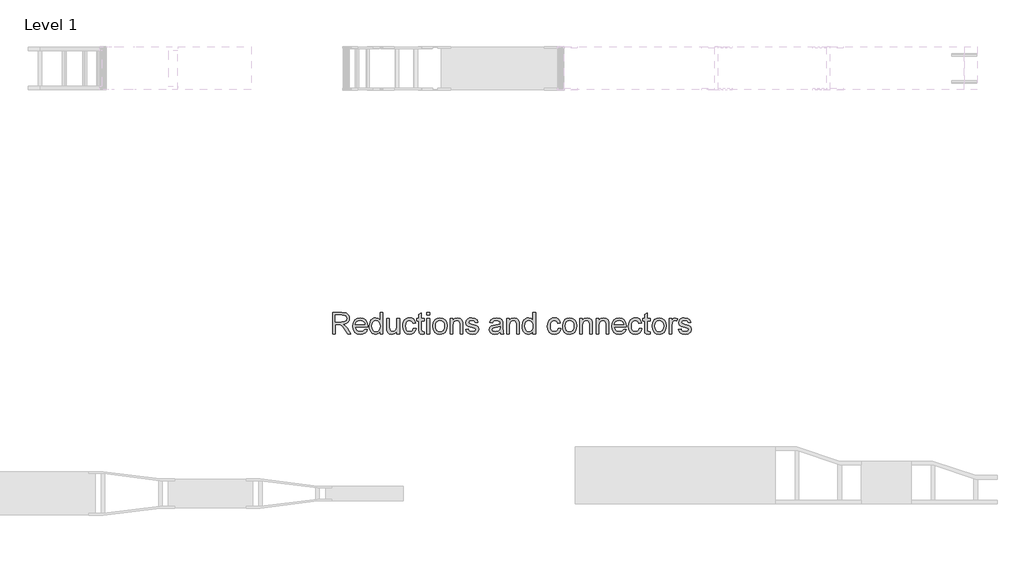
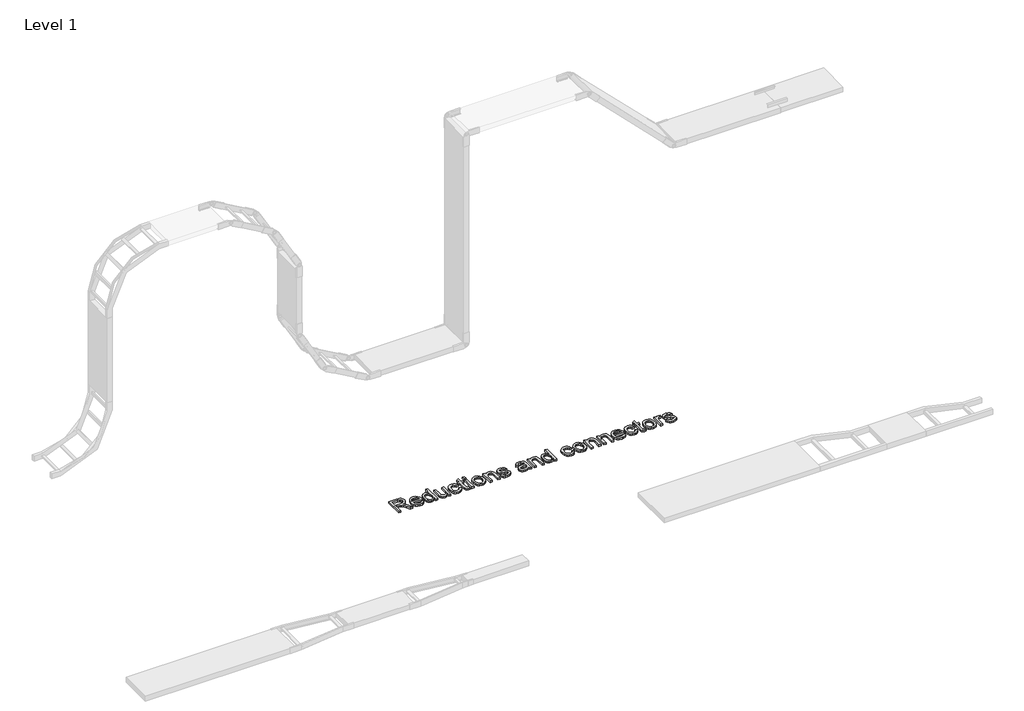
# One storey, part 42 of 106: 1 proxy.
"""IFC4 building model written with IfcOpenShell, lengths in millimetres."""

import ifcopenshell
import ifcopenshell.guid

model = None  # the IFC model being written
_history = None  # IfcOwnerHistory: only IFC2X3 demands one
_inside = {}  # id of a spatial element -> (the spatial element, [elements in it])
_under = {}  # id of a project, library or spatial element -> (it, [spatial elements below it])
_declared = {}  # id of a project -> (the project, [libraries it declares])
_typed = {}  # id of a type object -> (the type object, [elements of that type])
_made_of = {}  # id of a material, layer set ... -> (it, [elements and type objects made of it])


def new_model(schema):
    """Start an empty IFC model of exactly this schema.

    Asked for "IFC4X3", IfcOpenShell would pick the latest addendum, in which some entities
    have other attributes; the version numbers below select the first issue.
    IFC2X3 requires an IfcOwnerHistory on every rooted entity: one is made here for all.
    """
    global model, _history
    if schema == "IFC4X3":
        model = ifcopenshell.file(schema_version=(4, 3, 0, 0))
    else:
        model = ifcopenshell.file(schema=schema)
    _inside.clear()
    _under.clear()
    _declared.clear()
    _typed.clear()
    _made_of.clear()
    _history = None
    if model.schema == "IFC2X3":
        org = make("IfcOrganization", Name="unknown")
        user = make(
            "IfcPersonAndOrganization",
            ThePerson=make("IfcPerson", FamilyName="unknown"),
            TheOrganization=org,
        )
        app = make(
            "IfcApplication",
            ApplicationDeveloper=org,
            Version="unknown",
            ApplicationFullName="unknown",
            ApplicationIdentifier="unknown",
        )
        _history = make(
            "IfcOwnerHistory",
            OwningUser=user,
            OwningApplication=app,
            ChangeAction="ADDED",
            CreationDate=0,
        )
    return model


def make(cls, **values):
    """One entity of the class cls with the attributes given. An attribute that is None is left unset."""
    return model.create_entity(
        cls, **{name: value for name, value in values.items() if value is not None}
    )


def rooted(cls, **values):
    """An entity with a GlobalId (a new one), such as an element, a storey or a relation."""
    return make(cls, GlobalId=ifcopenshell.guid.new(), OwnerHistory=_history, **values)


def si_unit(unit_type, name, prefix=None):
    """IfcSIUnit, for example si_unit("LENGTHUNIT", "METRE", prefix="MILLI")."""
    return make("IfcSIUnit", UnitType=unit_type, Prefix=prefix, Name=name)


def assignment(units):
    """IfcUnitAssignment: the units of a project."""
    return None if units is None else make("IfcUnitAssignment", Units=units)


def point(xyz):
    """IfcCartesianPoint."""
    return None if xyz is None else make("IfcCartesianPoint", Coordinates=xyz)


def direction(xyz):
    """IfcDirection."""
    return None if xyz is None else make("IfcDirection", DirectionRatios=xyz)


def frame(location, z_axis=None, x_axis=None):
    """IfcAxis2Placement3D, a coordinate frame: its origin and axes. An axis left out is left unset."""
    return make(
        "IfcAxis2Placement3D",
        Location=point(location),
        Axis=direction(z_axis),
        RefDirection=direction(x_axis),
    )


def origin():
    """The frame at (0, 0, 0) with its axes left unset."""
    return frame((0.0, 0.0, 0.0))


def origin_with_axes():
    """The frame at (0, 0, 0) with the z axis (0, 0, 1) and the x axis (1, 0, 0) written out."""
    return frame((0.0, 0.0, 0.0), z_axis=(0.0, 0.0, 1.0), x_axis=(1.0, 0.0, 0.0))


def place(relative_to, where):
    """IfcLocalPlacement: puts the frame where relative to a parent placement (None: the world)."""
    return make(
        "IfcLocalPlacement", PlacementRelTo=relative_to, RelativePlacement=where
    )


def context(
    kind, dimensions, precision=None, world=None, true_north=None, identifier=None
):
    """IfcGeometricRepresentationContext, for example the 3D "Model" context."""
    return make(
        "IfcGeometricRepresentationContext",
        ContextIdentifier=identifier,
        ContextType=kind,
        CoordinateSpaceDimension=dimensions,
        Precision=precision,
        WorldCoordinateSystem=world,
        TrueNorth=true_north,
    )


def project(units=None, contexts=None):
    """IfcProject with its units and contexts."""
    return rooted(
        "IfcProject",
        Name="project",
        RepresentationContexts=contexts,
        UnitsInContext=assignment(units),
    )


def spatial(cls, under=None, at=None, **own):
    """A site, building, storey or space (cls), placed at a placement, below another one or the project."""
    s = rooted(cls, ObjectPlacement=at, **own)
    if under is not None:
        _under.setdefault(under.id(), (under, []))[1].append(s)
    return s


def polyline(points):
    """IfcPolyline through the points."""
    return make("IfcPolyline", Points=[point(p) for p in points])


def outline(outer, holes=None, kind="AREA"):
    """IfcArbitraryClosedProfileDef: a profile drawn as a closed curve; with holes, ...WithVoids."""
    if holes is None:
        return make("IfcArbitraryClosedProfileDef", ProfileType=kind, OuterCurve=outer)
    return make(
        "IfcArbitraryProfileDefWithVoids",
        ProfileType=kind,
        OuterCurve=outer,
        InnerCurves=holes,
    )


def extrude(swept, where, along, depth):
    """IfcExtrudedAreaSolid: the profile swept, set in the frame where, extruded along a direction by depth."""
    return make(
        "IfcExtrudedAreaSolid",
        SweptArea=swept,
        Position=where,
        ExtrudedDirection=direction(along),
        Depth=depth,
    )


def shape(context_of_items, identifier, shape_type, items):
    """IfcShapeRepresentation: the items that make up one representation, for example the "Body"."""
    return make(
        "IfcShapeRepresentation",
        ContextOfItems=context_of_items,
        RepresentationIdentifier=identifier,
        RepresentationType=shape_type,
        Items=items,
    )


def made_of(thing, what):
    """Note that an element or type object is made of a material, layer set ...; save() writes the relation."""
    if what is not None:
        _made_of.setdefault(what.id(), (what, []))[1].append(thing)
    return thing


def element(
    cls,
    number,
    at=None,
    inside=None,
    cuts=None,
    type_object=None,
    material=None,
    context=None,
    identifier="Body",
    shape_type=None,
    held_by="IfcProductDefinitionShape",
    body=None,
    shapes=None,
    **own,
):
    """One element of the class cls, such as IfcWall. Its Tag is "e" and its number.

    at: its placement. inside: the storey or other place that contains it. cuts: it is an
    opening in that element (IfcRelVoidsElement). A single representation is given by context,
    identifier, shape_type and body (its items); several are given by shapes. held_by: the class
    of the entity that holds the representations. save() writes the other relations.
    """
    e = rooted(cls, Tag="e%d" % number, ObjectPlacement=at, **own)
    if body is not None:
        shapes = [shape(context, identifier, shape_type, body)]
    if shapes is not None:
        e.Representation = make(held_by, Representations=shapes)
    if inside is not None:
        _inside.setdefault(inside.id(), (inside, []))[1].append(e)
    if cuts is not None:
        rooted(
            "IfcRelVoidsElement", RelatingBuildingElement=cuts, RelatedOpeningElement=e
        )
    if type_object is not None:
        _typed.setdefault(type_object.id(), (type_object, []))[1].append(e)
    return made_of(e, material)


def aggregate(whole, parts):
    """IfcRelAggregates: a whole, such as a stair, and the parts it consists of."""
    return rooted("IfcRelAggregates", RelatingObject=whole, RelatedObjects=parts)


def save(model, path):
    """Write the relations noted so far, then the file.

    IfcRelAggregates (storeys below a building ...), IfcRelContainedInSpatialStructure (elements
    in a storey), IfcRelDefinesByType, IfcRelAssociatesMaterial and IfcRelDeclares: one each for
    every whole, place, type object, material and project.
    """
    for whole, parts in _under.values():
        aggregate(whole, parts)
    for where, things in _inside.values():
        rooted(
            "IfcRelContainedInSpatialStructure",
            RelatedElements=things,
            RelatingStructure=where,
        )
    for kind, things in _typed.values():
        rooted("IfcRelDefinesByType", RelatedObjects=things, RelatingType=kind)
    for what, things in _made_of.values():
        rooted("IfcRelAssociatesMaterial", RelatedObjects=things, RelatingMaterial=what)
    for by, libraries in _declared.values():
        rooted("IfcRelDeclares", RelatingContext=by, RelatedDefinitions=libraries)
    model.write(path)


model = new_model("IFC4")

# Units and contexts
model_context = context("Model", 3, world=origin())
ifc_project = project(units=[si_unit("LENGTHUNIT", "METRE", prefix="MILLI")], contexts=[model_context])

# Site, building, storey
site = spatial("IfcSite", under=ifc_project)
building = spatial("IfcBuilding", under=site)
storey = spatial("IfcBuildingStorey", under=building, Name="Level 1", Elevation=0.0)

# Proxy
placement = place(None, origin())
element("IfcBuildingElementProxy", 1, Name="150mm Arial 2", ObjectType="150mm Arial 2", at=placement, inside=storey, context=model_context, shape_type="SweptSolid", body=[
    extrude(outline(polyline([(41668.5420892, 22747.8476348), (41668.5420892, 22898.5321), (41733.4732613, 22898.5321), (41763.6211908, 22894.467004), (41772.9010141, 22888.8384094), (41780.1023042, 22880.0828179), (41784.7238218, 22869.2257006), (41786.2643276, 22857.2925283), (41783.7121463, 22842.4484898), (41776.0556023, 22830.1428371), (41763.0647693, 22821.1205312), (41744.5097212, 22816.1265331), (41755.2150872, 22808.0699174), (41770.48219, 22788.6825362), (41795.6085303, 22747.8476348), (41773.7195516, 22747.8476348), (41754.1114412, 22779.0808162), (41739.9479844, 22799.7557843), (41729.9967765, 22809.5230513), (41721.0388499, 22813.1099007), (41710.1127546, 22813.7720883), (41687.3776473, 22813.7720883), (41687.3776473, 22747.8476348), (41668.5420892, 22747.8476348)]), holes=[polyline([(41687.3776473, 22832.6076465), (41729.536924, 22832.6076465), (41751.0396266, 22835.2747909), (41763.2533088, 22843.8096532), (41767.4287695, 22856.5935526), (41765.4376082, 22865.7814054), (41759.4641243, 22873.1850305), (41749.186421, 22878.068664), (41734.2826017, 22879.6965419), (41687.3776473, 22879.6965419), (41687.3776473, 22832.6076465)])]), origin_with_axes(), (0.0, 0.0, 1.0), 15.0),
    extrude(outline(polyline([(41894.3480578, 22780.8098615), (41912.815734, 22778.4554168), (41906.1616684, 22764.5402803), (41895.5436743, 22754.1384169), (41881.200875, 22747.6544967), (41863.3723938, 22745.49319), (41841.2718829, 22749.2225937), (41824.2665377, 22760.4108049), (41813.4232159, 22778.3312566), (41809.8087753, 22802.2573819), (41813.4600041, 22826.988249), (41824.4136905, 22845.4835163), (41841.1891095, 22857.0166168), (41862.305536, 22860.8609837), (41882.7643735, 22857.0258139), (41899.1121296, 22845.5203045), (41909.8312913, 22827.0618254), (41913.4043452, 22802.3677465), (41913.2939806, 22797.2909749), (41828.6443335, 22797.2909749), (41831.9046876, 22783.1918975), (41839.4784582, 22772.8268223), (41850.409152, 22766.4532667), (41863.7402758, 22764.3287482), (41882.207952, 22768.2650855), (41894.3480578, 22780.8098615)]), holes=[polyline([(41828.6443335, 22816.1265331), (41894.568787, 22816.1265331), (41892.0212042, 22826.0777411), (41887.0272061, 22833.1962577), (41876.0459285, 22839.8181336), (41862.2319596, 22842.0254255), (41849.5354323, 22840.2641905), (41839.0369998, 22834.9804853), (41831.7391407, 22826.7445272), (41828.6443335, 22816.1265331)])]), origin_with_axes(), (0.0, 0.0, 1.0), 15.0),
    extrude(outline(polyline([(42000.5188016, 22747.8476348), (42000.5188016, 22765.6163351), (41988.056799, 22750.5239763), (41970.8307246, 22745.49319), (41958.6538306, 22747.3142059), (41947.5070061, 22752.7772535), (41938.0708329, 22761.5006553), (41931.0258927, 22773.1027337), (41926.6388999, 22787.1144392), (41925.176569, 22803.0667223), (41930.5660402, 22833.0491049), (41937.2982807, 22844.9408904), (41946.7160598, 22853.6872848), (41958.1066061, 22859.067559), (41970.7571482, 22860.8609837), (41988.1211784, 22855.7290299), (42000.5188016, 22842.3933075), (42000.5188016, 22898.5321), (42019.3543598, 22898.5321), (42019.3543598, 22747.8476348), (42000.5188016, 22747.8476348)]), holes=[polyline([(41944.0121271, 22803.1402987), (41946.1366457, 22786.1027638), (41952.5102012, 22773.9856505), (41961.7716305, 22766.7429738), (41972.55977, 22764.3287482), (41983.343311, 22766.6326092), (41992.3702154, 22773.5441921), (41998.4816551, 22785.1922558), (42000.5188016, 22801.7055589), (41998.4448669, 22819.7593678), (41992.2230626, 22832.2765527), (41982.9662319, 22839.5882073), (41971.7872178, 22842.0254255), (41960.8887137, 22839.6847764), (41951.9583782, 22832.6628288), (41945.9986899, 22820.6008979), (41944.0121271, 22803.1402987)])]), origin_with_axes(), (0.0, 0.0, 1.0), 15.0),
    extrude(outline(polyline([(42118.2410401, 22747.8476348), (42118.2410401, 22766.8671339), (42103.4889721, 22750.836676), (42084.2487437, 22745.49319), (42066.5352256, 22749.2455864), (42054.3215434, 22758.6633654), (42048.711343, 22772.5325167), (42047.607697, 22790.0436996), (42047.607697, 22858.5065389), (42066.4432551, 22858.5065389), (42066.4432551, 22798.9096557), (42067.5836893, 22779.7062156), (42075.0332997, 22768.4306324), (42089.0679978, 22764.3287482), (42104.7949531, 22768.5226029), (42115.1876195, 22779.9453389), (42118.2410401, 22800.9330067), (42118.2410401, 22858.5065389), (42137.0765982, 22858.5065389), (42137.0765982, 22747.8476348), (42118.2410401, 22747.8476348)])), origin_with_axes(), (0.0, 0.0, 1.0), 15.0),
    extrude(outline(polyline([(42233.6088338, 22787.8731959), (42252.4443919, 22785.5187511), (42247.1928764, 22768.7663247), (42237.3244419, 22756.1065856), (42223.7679904, 22748.1465389), (42207.4524239, 22745.49319), (42187.4166507, 22749.1950026), (42171.7494763, 22760.3004403), (42161.6373199, 22778.3220596), (42158.2666011, 22802.7724167), (42159.7059394, 22819.5340401), (42164.0239544, 22834.0607803), (42171.2896238, 22845.7916175), (42181.5719255, 22854.1655314), (42193.8729797, 22859.1871206), (42207.1949065, 22860.8609837), (42223.1104013, 22858.5617212), (42235.8345198, 22851.6639338), (42244.9625918, 22840.5355035), (42250.0899471, 22825.5443122), (42231.254389, 22823.1898674), (42222.5171916, 22837.2981419), (42207.3420593, 22842.0254255), (42195.1697638, 22839.6985719), (42185.5082629, 22832.7180111), (42179.2036852, 22820.7066639), (42177.1021593, 22803.2874515), (42179.1576999, 22785.6337142), (42185.3243219, 22773.5809803), (42194.8110788, 22766.6418062), (42206.8270245, 22764.3287482), (42216.5804959, 22765.772685), (42224.5773308, 22770.1044955), (42230.3944648, 22777.4345442), (42233.6088338, 22787.8731959)])), origin_with_axes(), (0.0, 0.0, 1.0), 15.0),
    extrude(outline(polyline([(42308.9510664, 22763.556196), (42311.3055111, 22747.2958118), (42297.2156307, 22745.49319), (42281.4334931, 22748.620187), (42273.5608184, 22756.8239555), (42271.2799501, 22778.1978994), (42271.2799501, 22839.6709808), (42257.1532814, 22839.6709808), (42257.1532814, 22858.5065389), (42271.2799501, 22858.5065389), (42271.2799501, 22885.3987128), (42290.1155082, 22896.4719608), (42290.1155082, 22858.5065389), (42308.9510664, 22858.5065389), (42308.9510664, 22839.6709808), (42290.1155082, 22839.6709808), (42290.1155082, 22778.7497224), (42291.1087896, 22769.0376377), (42294.3277571, 22765.597941), (42300.7472979, 22764.3287482), (42308.9510664, 22763.556196)])), origin_with_axes(), (0.0, 0.0, 1.0), 15.0),
    extrude(outline(polyline([(42327.7866245, 22879.6965419), (42327.7866245, 22898.5321), (42346.6221827, 22898.5321), (42346.6221827, 22879.6965419), (42327.7866245, 22879.6965419)])), origin_with_axes(), (0.0, 0.0, 1.0), 15.0),
    extrude(outline(polyline([(42327.7866245, 22747.8476348), (42327.7866245, 22858.5065389), (42346.6221827, 22858.5065389), (42346.6221827, 22747.8476348), (42327.7866245, 22747.8476348)])), origin_with_axes(), (0.0, 0.0, 1.0), 15.0),
    extrude(outline(polyline([(42370.1666304, 22803.1770869), (42374.2409235, 22829.8577286), (42386.4638027, 22848.6105133), (42401.5653587, 22857.7983661), (42419.6467587, 22860.8609837), (42439.4342115, 22857.13158), (42455.2393417, 22845.9433688), (42465.5998184, 22828.179267), (42469.0533107, 22804.7221912), (42467.5266004, 22785.693495), (42462.9464695, 22771.2081415), (42455.4462754, 22760.3602211), (42445.1593751, 22752.2438246), (42432.9410943, 22747.1808487), (42419.6467587, 22745.49319), (42399.6201826, 22749.2087982), (42383.8334465, 22760.3556226), (42373.5833344, 22778.492205), (42370.1666304, 22803.1770869)]), holes=[polyline([(42389.0021885, 22803.2138751), (42391.1818893, 22786.1671431), (42397.7209918, 22774.0224387), (42407.5618352, 22766.7521708), (42419.6467587, 22764.3287482), (42431.6765, 22766.7659664), (42441.4989492, 22774.077621), (42448.0380517, 22786.3832738), (42450.2177525, 22803.8024862), (42448.0242561, 22820.3525775), (42441.4437669, 22832.331735), (42431.6075221, 22839.6020029), (42419.6467587, 22842.0254255), (42407.5618352, 22839.6112), (42397.7209918, 22832.3685232), (42391.1818893, 22820.25141), (42389.0021885, 22803.2138751)])]), origin_with_axes(), (0.0, 0.0, 1.0), 15.0),
    extrude(outline(polyline([(42490.2433136, 22747.8476348), (42490.2433136, 22858.5065389), (42509.0788717, 22858.5065389), (42509.0788717, 22843.0554951), (42523.4814519, 22856.4096116), (42543.1447445, 22860.8609837), (42560.931839, 22857.2741342), (42573.0719448, 22847.8563552), (42578.7189334, 22834.0055981), (42579.7122148, 22815.7954393), (42579.7122148, 22747.8476348), (42560.8766567, 22747.8476348), (42560.8766567, 22813.2570535), (42558.7061529, 22829.9221079), (42551.0358133, 22838.7328817), (42538.1047612, 22842.0254255), (42527.0728998, 22840.1768185), (42517.6689163, 22834.6309974), (42511.2263829, 22823.9164343), (42509.0788717, 22806.5616012), (42509.0788717, 22747.8476348), (42490.2433136, 22747.8476348)])), origin_with_axes(), (0.0, 0.0, 1.0), 15.0),
    extrude(outline(polyline([(42598.547773, 22780.8098615), (42617.3833311, 22783.1643063), (42620.3539782, 22775.1076906), (42626.1021344, 22769.1847905), (42646.0781267, 22764.3287482), (42665.2815669, 22768.7801203), (42671.5355608, 22779.227969), (42669.9628653, 22784.028829), (42665.2447787, 22787.6892549), (42645.8573975, 22793.060332), (42617.4936957, 22802.275776), (42605.1144666, 22813.0363243), (42600.9022177, 22828.2298507), (42604.2867321, 22842.2645488), (42613.5205702, 22852.988309), (42625.4951291, 22858.5617212), (42641.700331, 22860.8609837), (42664.6193793, 22857.1637696), (42679.1875063, 22847.1573794), (42685.6622294, 22830.2532017), (42666.8266713, 22827.8987569), (42659.7449429, 22838.2914233), (42643.171859, 22842.0254255), (42625.1456412, 22838.4569702), (42619.7377759, 22830.1428371), (42621.9818561, 22824.6613954), (42629.0084022, 22820.5043288), (42645.2319982, 22816.4944151), (42672.8783301, 22807.628459), (42685.7174117, 22797.5852805), (42690.371119, 22781.2145317), (42684.9080713, 22763.188314), (42669.1443278, 22750.1101091), (42645.8206093, 22745.49319), (42626.8287013, 22747.7188761), (42612.9687472, 22754.3959343), (42603.716515, 22765.4507882), (42598.547773, 22780.8098615)])), origin_with_axes(), (0.0, 0.0, 1.0), 15.0),
    extrude(outline(polyline([(42841.0555842, 22761.9743034), (42822.7902431, 22749.2087982), (42802.6119157, 22745.49319), (42786.8711648, 22747.7280731), (42775.2598894, 22754.4327225), (42768.099986, 22764.6138567), (42765.7133516, 22777.2781944), (42769.3185951, 22792.1774152), (42778.7915565, 22802.9931459), (42791.980126, 22809.1735634), (42808.2772984, 22812.0062547), (42840.9452196, 22818.4809779), (42841.0555842, 22822.6748326), (42839.7588002, 22831.0809362), (42835.8684481, 22836.580772), (42827.1680389, 22840.6642622), (42815.0463271, 22842.0254255), (42795.9900398, 22838.4017879), (42786.9033545, 22825.5443122), (42768.0677963, 22827.8987569), (42776.2163825, 22846.2928567), (42792.6239195, 22857.0717991), (42817.4743483, 22860.8609837), (42840.3014261, 22857.5132575), (42853.19569, 22849.107154), (42858.9714374, 22836.3232546), (42859.8911423, 22819.8421412), (42859.8911423, 22796.4080581), (42860.8476355, 22763.6849547), (42864.6000319, 22747.8476348), (42845.7644737, 22747.8476348), (42841.0555842, 22761.9743034)]), holes=[polyline([(42841.0555842, 22799.6454197), (42810.6685314, 22793.8696724), (42794.4633295, 22790.8162518), (42787.1240837, 22785.8498449), (42784.5489097, 22778.6025696), (42790.1591102, 22768.4122383), (42806.6218294, 22764.3287482), (42825.6781168, 22768.8353026), (42837.9653754, 22779.7430038), (42840.9452196, 22794.3111308), (42841.0555842, 22799.6454197)])]), origin_with_axes(), (0.0, 0.0, 1.0), 15.0),
    extrude(outline(polyline([(42885.7900348, 22747.8476348), (42885.7900348, 22858.5065389), (42904.625593, 22858.5065389), (42904.625593, 22843.0554951), (42919.0281731, 22856.4096116), (42938.6914657, 22860.8609837), (42956.4785602, 22857.2741342), (42968.618666, 22847.8563552), (42974.2656546, 22834.0055981), (42975.258936, 22815.7954393), (42975.258936, 22747.8476348), (42956.4233779, 22747.8476348), (42956.4233779, 22813.2570535), (42954.2528741, 22829.9221079), (42946.5825345, 22838.7328817), (42933.6514824, 22842.0254255), (42922.619621, 22840.1768185), (42913.2156375, 22834.6309974), (42906.7731041, 22823.9164343), (42904.625593, 22806.5616012), (42904.625593, 22747.8476348), (42885.7900348, 22747.8476348)])), origin_with_axes(), (0.0, 0.0, 1.0), 15.0),
    extrude(outline(polyline([(43069.4367268, 22747.8476348), (43069.4367268, 22765.6163351), (43056.9747242, 22750.5239763), (43039.7486498, 22745.49319), (43027.5717557, 22747.3142059), (43016.4249313, 22752.7772535), (43006.9887581, 22761.5006553), (42999.9438179, 22773.1027337), (42995.5568251, 22787.1144392), (42994.0944942, 22803.0667223), (42999.4839654, 22833.0491049), (43006.2162059, 22844.9408904), (43015.633985, 22853.6872848), (43027.0245313, 22859.067559), (43039.6750734, 22860.8609837), (43057.0391036, 22855.7290299), (43069.4367268, 22842.3933075), (43069.4367268, 22898.5321), (43088.2722849, 22898.5321), (43088.2722849, 22747.8476348), (43069.4367268, 22747.8476348)]), holes=[polyline([(43012.9300523, 22803.1402987), (43015.0545709, 22786.1027638), (43021.4281264, 22773.9856505), (43030.6895557, 22766.7429738), (43041.4776952, 22764.3287482), (43052.2612361, 22766.6326092), (43061.2881406, 22773.5441921), (43067.3995802, 22785.1922558), (43069.4367268, 22801.7055589), (43067.362792, 22819.7593678), (43061.1409878, 22832.2765527), (43051.8841571, 22839.5882073), (43040.705143, 22842.0254255), (43029.8066389, 22839.6847764), (43020.8763034, 22832.6628288), (43014.9166151, 22820.6008979), (43012.9300523, 22803.1402987)])]), origin_with_axes(), (0.0, 0.0, 1.0), 15.0),
    extrude(outline(polyline([(43246.0200845, 22787.8731959), (43264.8556426, 22785.5187511), (43259.6041272, 22768.7663247), (43249.7356926, 22756.1065856), (43236.1792411, 22748.1465389), (43219.8636746, 22745.49319), (43199.8279015, 22749.1950026), (43184.160727, 22760.3004403), (43174.0485706, 22778.3220596), (43170.6778519, 22802.7724167), (43172.1171902, 22819.5340401), (43176.4352051, 22834.0607803), (43183.7008745, 22845.7916175), (43193.9831763, 22854.1655314), (43206.2842305, 22859.1871206), (43219.6061572, 22860.8609837), (43235.521652, 22858.5617212), (43248.2457706, 22851.6639338), (43257.3738426, 22840.5355035), (43262.5011979, 22825.5443122), (43243.6656397, 22823.1898674), (43234.9284423, 22837.2981419), (43219.75331, 22842.0254255), (43207.5810145, 22839.6985719), (43197.9195136, 22832.7180111), (43191.6149359, 22820.7066639), (43189.51341, 22803.2874515), (43191.5689507, 22785.6337142), (43197.7355726, 22773.5809803), (43207.2223296, 22766.6418062), (43219.2382752, 22764.3287482), (43228.9917466, 22765.772685), (43236.9885815, 22770.1044955), (43242.8057155, 22777.4345442), (43246.0200845, 22787.8731959)])), origin_with_axes(), (0.0, 0.0, 1.0), 15.0),
    extrude(outline(polyline([(43276.6278665, 22803.1770869), (43280.7021596, 22829.8577286), (43292.9250389, 22848.6105133), (43308.0265948, 22857.7983661), (43326.1079948, 22860.8609837), (43345.8954476, 22857.13158), (43361.7005779, 22845.9433688), (43372.0610546, 22828.179267), (43375.5145468, 22804.7221912), (43373.9878365, 22785.693495), (43369.4077057, 22771.2081415), (43361.9075115, 22760.3602211), (43351.6206112, 22752.2438246), (43339.4023304, 22747.1808487), (43326.1079948, 22745.49319), (43306.0814187, 22749.2087982), (43290.2946826, 22760.3556226), (43280.0445705, 22778.492205), (43276.6278665, 22803.1770869)]), holes=[polyline([(43295.4634246, 22803.2138751), (43297.6431255, 22786.1671431), (43304.1822279, 22774.0224387), (43314.0230713, 22766.7521708), (43326.1079948, 22764.3287482), (43338.1377361, 22766.7659664), (43347.9601853, 22774.077621), (43354.4992878, 22786.3832738), (43356.6789886, 22803.8024862), (43354.4854922, 22820.3525775), (43347.905003, 22832.331735), (43338.0687582, 22839.6020029), (43326.1079948, 22842.0254255), (43314.0230713, 22839.6112), (43304.1822279, 22832.3685232), (43297.6431255, 22820.25141), (43295.4634246, 22803.2138751)])]), origin_with_axes(), (0.0, 0.0, 1.0), 15.0),
    extrude(outline(polyline([(43396.7045497, 22747.8476348), (43396.7045497, 22858.5065389), (43415.5401079, 22858.5065389), (43415.5401079, 22843.0554951), (43429.942688, 22856.4096116), (43449.6059806, 22860.8609837), (43467.3930751, 22857.2741342), (43479.5331809, 22847.8563552), (43485.1801695, 22834.0055981), (43486.1734509, 22815.7954393), (43486.1734509, 22747.8476348), (43467.3378928, 22747.8476348), (43467.3378928, 22813.2570535), (43465.167389, 22829.9221079), (43457.4970494, 22838.7328817), (43444.5659973, 22842.0254255), (43433.5341359, 22840.1768185), (43424.1301524, 22834.6309974), (43417.687619, 22823.9164343), (43415.5401079, 22806.5616012), (43415.5401079, 22747.8476348), (43396.7045497, 22747.8476348)])), origin_with_axes(), (0.0, 0.0, 1.0), 15.0),
    extrude(outline(polyline([(43512.0723434, 22747.8476348), (43512.0723434, 22858.5065389), (43530.9079015, 22858.5065389), (43530.9079015, 22843.0554951), (43545.3104817, 22856.4096116), (43564.9737743, 22860.8609837), (43582.7608688, 22857.2741342), (43594.9009746, 22847.8563552), (43600.5479632, 22834.0055981), (43601.5412446, 22815.7954393), (43601.5412446, 22747.8476348), (43582.7056865, 22747.8476348), (43582.7056865, 22813.2570535), (43580.5351827, 22829.9221079), (43572.8648431, 22838.7328817), (43559.933791, 22842.0254255), (43548.9019296, 22840.1768185), (43539.4979461, 22834.6309974), (43533.0554127, 22823.9164343), (43530.9079015, 22806.5616012), (43530.9079015, 22747.8476348), (43512.0723434, 22747.8476348)])), origin_with_axes(), (0.0, 0.0, 1.0), 15.0),
    extrude(outline(polyline([(43704.9160853, 22780.8098615), (43723.3837614, 22778.4554168), (43716.7296958, 22764.5402803), (43706.1117017, 22754.1384169), (43691.7689025, 22747.6544967), (43673.9404213, 22745.49319), (43651.8399104, 22749.2225937), (43634.8345652, 22760.4108049), (43623.9912434, 22778.3312566), (43620.3768028, 22802.2573819), (43624.0280316, 22826.988249), (43634.981718, 22845.4835163), (43651.757137, 22857.0166168), (43672.8735635, 22860.8609837), (43693.3324009, 22857.0258139), (43709.6801571, 22845.5203045), (43720.3993187, 22827.0618254), (43723.9723726, 22802.3677465), (43723.862008, 22797.2909749), (43639.2123609, 22797.2909749), (43642.4727151, 22783.1918975), (43650.0464857, 22772.8268223), (43660.9771795, 22766.4532667), (43674.3083033, 22764.3287482), (43692.7759794, 22768.2650855), (43704.9160853, 22780.8098615)]), holes=[polyline([(43639.2123609, 22816.1265331), (43705.1368145, 22816.1265331), (43702.5892316, 22826.0777411), (43697.5952336, 22833.1962577), (43686.613956, 22839.8181336), (43672.7999871, 22842.0254255), (43660.1034597, 22840.2641905), (43649.6050273, 22834.9804853), (43642.3071682, 22826.7445272), (43639.2123609, 22816.1265331)])]), origin_with_axes(), (0.0, 0.0, 1.0), 15.0),
    extrude(outline(polyline([(43813.4412738, 22787.8731959), (43832.276832, 22785.5187511), (43827.0253165, 22768.7663247), (43817.156882, 22756.1065856), (43803.6004305, 22748.1465389), (43787.284864, 22745.49319), (43767.2490908, 22749.1950026), (43751.5819164, 22760.3004403), (43741.46976, 22778.3220596), (43738.0990412, 22802.7724167), (43739.5383795, 22819.5340401), (43743.8563945, 22834.0607803), (43751.1220639, 22845.7916175), (43761.4043656, 22854.1655314), (43773.7054198, 22859.1871206), (43787.0273466, 22860.8609837), (43802.9428414, 22858.5617212), (43815.6669599, 22851.6639338), (43824.7950319, 22840.5355035), (43829.9223872, 22825.5443122), (43811.0868291, 22823.1898674), (43802.3496317, 22837.2981419), (43787.1744994, 22842.0254255), (43775.0022039, 22839.6985719), (43765.340703, 22832.7180111), (43759.0361253, 22820.7066639), (43756.9345994, 22803.2874515), (43758.99014, 22785.6337142), (43765.156762, 22773.5809803), (43774.6435189, 22766.6418062), (43786.6594646, 22764.3287482), (43796.412936, 22765.772685), (43804.4097709, 22770.1044955), (43810.2269049, 22777.4345442), (43813.4412738, 22787.8731959)])), origin_with_axes(), (0.0, 0.0, 1.0), 15.0),
    extrude(outline(polyline([(43888.7835065, 22763.556196), (43891.1379512, 22747.2958118), (43877.0480708, 22745.49319), (43861.2659332, 22748.620187), (43853.3932585, 22756.8239555), (43851.1123901, 22778.1978994), (43851.1123901, 22839.6709808), (43836.9857215, 22839.6709808), (43836.9857215, 22858.5065389), (43851.1123901, 22858.5065389), (43851.1123901, 22885.3987128), (43869.9479483, 22896.4719608), (43869.9479483, 22858.5065389), (43888.7835065, 22858.5065389), (43888.7835065, 22839.6709808), (43869.9479483, 22839.6709808), (43869.9479483, 22778.7497224), (43870.9412297, 22769.0376377), (43874.1601971, 22765.597941), (43880.579738, 22764.3287482), (43888.7835065, 22763.556196)])), origin_with_axes(), (0.0, 0.0, 1.0), 15.0),
    extrude(outline(polyline([(43902.9101751, 22803.1770869), (43906.9844682, 22829.8577286), (43919.2073475, 22848.6105133), (43934.3089034, 22857.7983661), (43952.3903034, 22860.8609837), (43972.1777562, 22857.13158), (43987.9828865, 22845.9433688), (43998.3433631, 22828.179267), (44001.7968554, 22804.7221912), (44000.2701451, 22785.693495), (43995.6900143, 22771.2081415), (43988.1898201, 22760.3602211), (43977.9029198, 22752.2438246), (43965.684639, 22747.1808487), (43952.3903034, 22745.49319), (43932.3637273, 22749.2087982), (43916.5769912, 22760.3556226), (43906.3268791, 22778.492205), (43902.9101751, 22803.1770869)]), holes=[polyline([(43921.7457332, 22803.2138751), (43923.925434, 22786.1671431), (43930.4645365, 22774.0224387), (43940.3053799, 22766.7521708), (43952.3903034, 22764.3287482), (43964.4200447, 22766.7659664), (43974.2424939, 22774.077621), (43980.7815964, 22786.3832738), (43982.9612972, 22803.8024862), (43980.7678008, 22820.3525775), (43974.1873116, 22832.331735), (43964.3510668, 22839.6020029), (43952.3903034, 22842.0254255), (43940.3053799, 22839.6112), (43930.4645365, 22832.3685232), (43923.925434, 22820.25141), (43921.7457332, 22803.2138751)])]), origin_with_axes(), (0.0, 0.0, 1.0), 15.0),
    extrude(outline(polyline([(44022.9868583, 22747.8476348), (44022.9868583, 22858.5065389), (44039.4679717, 22858.5065389), (44039.4679717, 22842.1357901), (44051.1666191, 22857.2189519), (44062.938843, 22860.8609837), (44081.8479775, 22855.0484482), (44075.5571954, 22838.1626646), (44062.3134436, 22842.0254255), (44051.6632598, 22838.3098174), (44044.875837, 22828.0091215), (44041.8224164, 22806.0097782), (44041.8224164, 22747.8476348), (44022.9868583, 22747.8476348)])), origin_with_axes(), (0.0, 0.0, 1.0), 15.0),
    extrude(outline(polyline([(44086.5568671, 22780.8098615), (44105.3924252, 22783.1643063), (44108.3630723, 22775.1076906), (44114.1112285, 22769.1847905), (44134.0872208, 22764.3287482), (44153.290661, 22768.7801203), (44159.5446549, 22779.227969), (44157.9719594, 22784.028829), (44153.2538728, 22787.6892549), (44133.8664916, 22793.060332), (44105.5027898, 22802.275776), (44093.1235607, 22813.0363243), (44088.9113118, 22828.2298507), (44092.2958262, 22842.2645488), (44101.5296643, 22852.988309), (44113.5042232, 22858.5617212), (44129.7094251, 22860.8609837), (44152.6284734, 22857.1637696), (44167.1966004, 22847.1573794), (44173.6713235, 22830.2532017), (44154.8357654, 22827.8987569), (44147.754037, 22838.2914233), (44131.1809531, 22842.0254255), (44113.1547353, 22838.4569702), (44107.74687, 22830.1428371), (44109.9909502, 22824.6613954), (44117.0174963, 22820.5043288), (44133.2410922, 22816.4944151), (44160.8874242, 22807.628459), (44173.7265058, 22797.5852805), (44178.3802131, 22781.2145317), (44172.9171654, 22763.188314), (44157.1534219, 22750.1101091), (44133.8297034, 22745.49319), (44114.8377954, 22747.7188761), (44100.9778413, 22754.3959343), (44091.7256091, 22765.4507882), (44086.5568671, 22780.8098615)])), origin_with_axes(), (0.0, 0.0, 1.0), 15.0),
])

save(model, "model.ifc")
